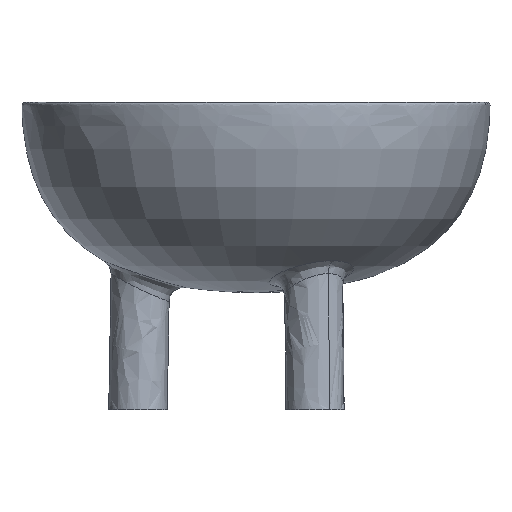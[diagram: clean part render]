
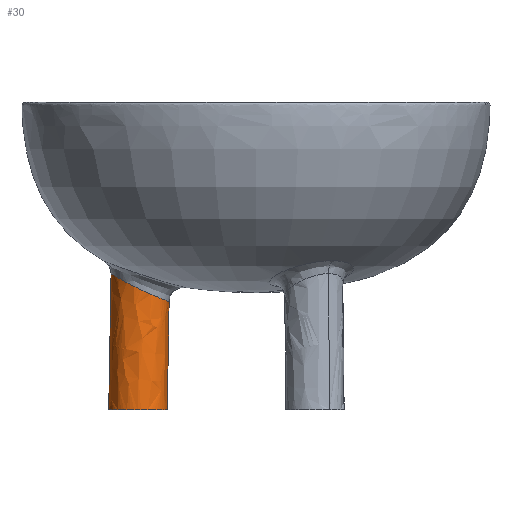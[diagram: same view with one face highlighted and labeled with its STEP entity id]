
A CAD part, front view. The second image highlights one B-rep face of the part: STEP entity #30.
In plain terms, the highlighted free-form (B-spline) face has degree [2, 1] with [5, 2] control points.
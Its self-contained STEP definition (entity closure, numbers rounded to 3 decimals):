
#30=ADVANCED_FACE('',(#51),#271,.T.);
#51=FACE_OUTER_BOUND('',#72,.T.);
#72=EDGE_LOOP('',(#137,#138,#139,#140,#141));
#137=ORIENTED_EDGE('',*,*,#184,.T.);
#138=ORIENTED_EDGE('',*,*,#162,.T.);
#139=ORIENTED_EDGE('',*,*,#192,.F.);
#140=ORIENTED_EDGE('',*,*,#185,.F.);
#141=ORIENTED_EDGE('',*,*,#183,.F.);
#162=EDGE_CURVE('',#237,#243,#205,.T.);
#183=EDGE_CURVE('',#250,#251,#223,.T.);
#184=EDGE_CURVE('',#250,#237,#199,.T.);
#185=EDGE_CURVE('',#251,#255,#224,.T.);
#192=EDGE_CURVE('',#255,#243,#231,.T.);
#199=B_SPLINE_CURVE_WITH_KNOTS('',3,(#1798,#1799,#1800,#1801,#1802,#1803,
#1804,#1805,#1806,#1807,#1808,#1809,#1810,#1811,#1812,#1813,#1814,#1815,
#1816),.UNSPECIFIED.,.F.,.F.,(4,2,2,2,3,2,2,2,4),(31.621,35.573,
39.526,43.478,47.431,51.383,55.336,
59.289,63.241),.UNSPECIFIED.);
#205=(
BOUNDED_CURVE()
B_SPLINE_CURVE(1,(#1232,#1233),.UNSPECIFIED.,.F.,.F.)
B_SPLINE_CURVE_WITH_KNOTS((2,2),(15.783,31.929),
 .UNSPECIFIED.)
CURVE()
GEOMETRIC_REPRESENTATION_ITEM()
RATIONAL_B_SPLINE_CURVE((1.,1.))
REPRESENTATION_ITEM('')
);
#223=(
BOUNDED_CURVE()
B_SPLINE_CURVE(1,(#1796,#1797),.UNSPECIFIED.,.F.,.F.)
B_SPLINE_CURVE_WITH_KNOTS((2,2),(15.63,35.967),
 .UNSPECIFIED.)
CURVE()
GEOMETRIC_REPRESENTATION_ITEM()
RATIONAL_B_SPLINE_CURVE((1.,1.))
REPRESENTATION_ITEM('')
);
#224=(
BOUNDED_CURVE()
B_SPLINE_CURVE(3,(#1817,#1818,#1819,#1820),.UNSPECIFIED.,.F.,.F.)
B_SPLINE_CURVE_WITH_KNOTS((4,4),(48.23,49.103),
 .UNSPECIFIED.)
CURVE()
GEOMETRIC_REPRESENTATION_ITEM()
RATIONAL_B_SPLINE_CURVE((1.,1.,1.,1.))
REPRESENTATION_ITEM('')
);
#231=(
BOUNDED_CURVE()
B_SPLINE_CURVE(3,(#1982,#1983,#1984,#1985,#1986,#1987,#1988,#1989,#1990,
#1991,#1992,#1993,#1994,#1995,#1996,#1997,#1998,#1999,#2000,#2001,#2002),
 .UNSPECIFIED.,.F.,.F.)
B_SPLINE_CURVE_WITH_KNOTS((4,1,1,1,1,1,1,1,1,1,1,1,1,1,1,1,1,1,4),(49.103,
50.929,52.756,54.592,56.425,60.11,
66.325,70.152,74.057,76.049,79.241,
81.308,83.408,85.54,87.691,89.867,
92.058,94.253,96.46),.UNSPECIFIED.)
CURVE()
GEOMETRIC_REPRESENTATION_ITEM()
RATIONAL_B_SPLINE_CURVE((1.,1.,1.,1.,1.,
1.,1.,1.,1.,1.,1.,1.,1.,1.,1.,1.,1.,1.,1.,1.,
1.))
REPRESENTATION_ITEM('')
);
#237=VERTEX_POINT('',#1115);
#243=VERTEX_POINT('',#1121);
#250=VERTEX_POINT('',#1128);
#251=VERTEX_POINT('',#1129);
#255=VERTEX_POINT('',#1133);
#271=(
BOUNDED_SURFACE()
B_SPLINE_SURFACE(2,1,((#890,#891),(#892,#893),(#894,#895),(#896,#897),(#898,
#899)),.UNSPECIFIED.,.F.,.F.,.F.)
B_SPLINE_SURFACE_WITH_KNOTS((3,2,3),(2,2),(31.416,47.124,
62.832),(0.,50.),.UNSPECIFIED.)
GEOMETRIC_REPRESENTATION_ITEM()
RATIONAL_B_SPLINE_SURFACE(((1.,1.),(0.707,0.707),
(1.,1.),(0.707,0.707),(1.,1.)))
REPRESENTATION_ITEM('')
SURFACE()
);
#890=CARTESIAN_POINT('',(597.251,-1798.539,-35.691));
#891=CARTESIAN_POINT('',(599.244,-1798.539,78.483));
#892=CARTESIAN_POINT('',(597.251,-1808.539,-35.691));
#893=CARTESIAN_POINT('',(599.244,-1808.539,78.483));
#894=CARTESIAN_POINT('',(607.25,-1808.539,-35.866));
#895=CARTESIAN_POINT('',(609.243,-1808.539,78.308));
#896=CARTESIAN_POINT('',(617.248,-1808.539,-36.04));
#897=CARTESIAN_POINT('',(619.241,-1808.539,78.134));
#898=CARTESIAN_POINT('',(617.248,-1798.539,-36.04));
#899=CARTESIAN_POINT('',(619.241,-1798.539,78.134));
#1115=CARTESIAN_POINT('',(617.878,-1798.539,0.));
#1121=CARTESIAN_POINT('',(618.521,-1798.539,36.869));
#1128=CARTESIAN_POINT('',(597.874,-1798.539,0.));
#1129=CARTESIAN_POINT('',(598.685,-1798.539,46.439));
#1133=CARTESIAN_POINT('',(598.702,-1799.121,46.428));
#1232=CARTESIAN_POINT('',(617.878,-1798.539,0.));
#1233=CARTESIAN_POINT('',(618.521,-1798.539,36.869));
#1796=CARTESIAN_POINT('',(597.874,-1798.539,0.));
#1797=CARTESIAN_POINT('',(598.685,-1798.539,46.439));
#1798=CARTESIAN_POINT('',(597.874,-1798.539,0.));
#1799=CARTESIAN_POINT('',(597.874,-1799.852,0.));
#1800=CARTESIAN_POINT('',(598.133,-1801.152,0.));
#1801=CARTESIAN_POINT('',(599.139,-1803.579,0.));
#1802=CARTESIAN_POINT('',(599.875,-1804.681,0.));
#1803=CARTESIAN_POINT('',(601.733,-1806.539,0.));
#1804=CARTESIAN_POINT('',(602.835,-1807.275,0.));
#1805=CARTESIAN_POINT('',(605.262,-1808.28,0.));
#1806=CARTESIAN_POINT('',(606.563,-1808.539,0.));
#1807=CARTESIAN_POINT('',(607.876,-1808.539,0.));
#1808=CARTESIAN_POINT('',(609.189,-1808.539,0.));
#1809=CARTESIAN_POINT('',(610.49,-1808.28,0.));
#1810=CARTESIAN_POINT('',(612.917,-1807.275,0.));
#1811=CARTESIAN_POINT('',(614.019,-1806.539,0.));
#1812=CARTESIAN_POINT('',(615.877,-1804.681,0.));
#1813=CARTESIAN_POINT('',(616.613,-1803.579,0.));
#1814=CARTESIAN_POINT('',(617.619,-1801.152,0.));
#1815=CARTESIAN_POINT('',(617.878,-1799.852,0.));
#1816=CARTESIAN_POINT('',(617.878,-1798.539,0.));
#1817=CARTESIAN_POINT('',(598.685,-1798.539,46.439));
#1818=CARTESIAN_POINT('',(598.685,-1798.733,46.439));
#1819=CARTESIAN_POINT('',(598.691,-1798.927,46.435));
#1820=CARTESIAN_POINT('',(598.702,-1799.121,46.428));
#1982=CARTESIAN_POINT('',(598.702,-1799.121,46.428));
#1983=CARTESIAN_POINT('',(598.725,-1799.526,46.414));
#1984=CARTESIAN_POINT('',(598.821,-1800.332,46.357));
#1985=CARTESIAN_POINT('',(599.108,-1801.515,46.184));
#1986=CARTESIAN_POINT('',(599.533,-1802.649,45.931));
#1987=CARTESIAN_POINT('',(600.275,-1804.077,45.495));
#1988=CARTESIAN_POINT('',(601.838,-1806.095,44.594));
#1989=CARTESIAN_POINT('',(604.299,-1807.745,43.246));
#1990=CARTESIAN_POINT('',(607.145,-1808.533,41.795));
#1991=CARTESIAN_POINT('',(609.208,-1808.581,40.801));
#1992=CARTESIAN_POINT('',(611.11,-1808.26,39.924));
#1993=CARTESIAN_POINT('',(612.578,-1807.751,39.272));
#1994=CARTESIAN_POINT('',(613.966,-1806.983,38.679));
#1995=CARTESIAN_POINT('',(615.061,-1806.166,38.223));
#1996=CARTESIAN_POINT('',(616.052,-1805.186,37.822));
#1997=CARTESIAN_POINT('',(616.912,-1804.057,37.483));
#1998=CARTESIAN_POINT('',(617.613,-1802.799,37.212));
#1999=CARTESIAN_POINT('',(618.131,-1801.439,37.015));
#2000=CARTESIAN_POINT('',(618.449,-1800.007,36.896));
#2001=CARTESIAN_POINT('',(618.521,-1799.029,36.869));
#2002=CARTESIAN_POINT('',(618.521,-1798.539,36.869));
